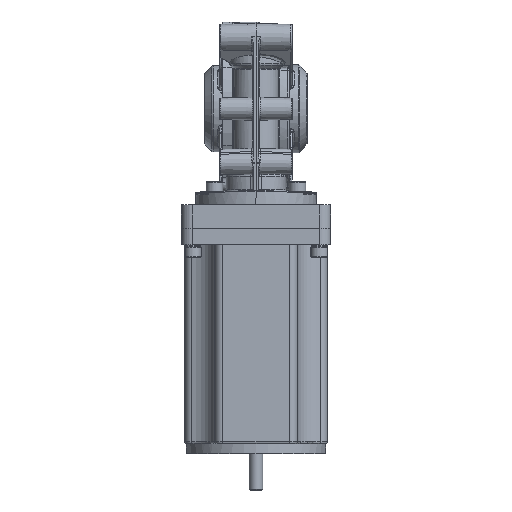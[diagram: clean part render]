
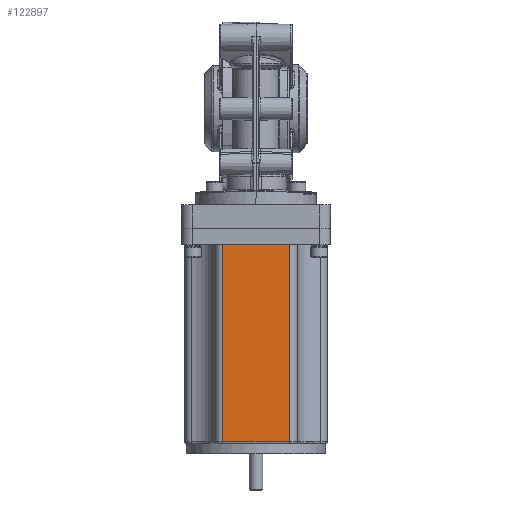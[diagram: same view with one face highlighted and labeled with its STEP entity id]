
A CAD part, front view. The second image highlights one B-rep face of the part: STEP entity #122897.
In plain terms, the highlighted planar face has unit normal (0, -1, 0).
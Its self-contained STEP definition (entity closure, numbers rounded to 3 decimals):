
#8643 = DIRECTION ( 'NONE',  ( 0., 0., 1. ) ) ;
#9313 = CARTESIAN_POINT ( 'NONE',  ( 45.459, -45.684, -94.205 ) ) ;
#17553 = VERTEX_POINT ( 'NONE', #9313 ) ;
#24649 = EDGE_CURVE ( 'NONE', #48954, #25318, #122090, .T. ) ;
#25318 = VERTEX_POINT ( 'NONE', #147780 ) ;
#30849 = AXIS2_PLACEMENT_3D ( 'NONE', #34263, #133296, #60990 ) ;
#34263 = CARTESIAN_POINT ( 'NONE',  ( -17.579, -45.684, -81.705 ) ) ;
#42306 = CARTESIAN_POINT ( 'NONE',  ( 45.459, -45.684, -213.205 ) ) ;
#43373 = ORIENTED_EDGE ( 'NONE', *, *, #90122, .T. ) ;
#43898 = DIRECTION ( 'NONE',  ( 1., 0., 0. ) ) ;
#48954 = VERTEX_POINT ( 'NONE', #114506 ) ;
#50348 = VECTOR ( 'NONE', #8643, 1000. ) ;
#53748 = DIRECTION ( 'NONE',  ( 0., 0., -1. ) ) ;
#60990 = DIRECTION ( 'NONE',  ( 1., 0., 0. ) ) ;
#67125 = CARTESIAN_POINT ( 'NONE',  ( 45.459, -45.684, -81.705 ) ) ;
#68939 = EDGE_CURVE ( 'NONE', #69695, #17553, #70380, .T. ) ;
#69390 = VECTOR ( 'NONE', #53748, 1000. ) ;
#69695 = VERTEX_POINT ( 'NONE', #160430 ) ;
#70380 = LINE ( 'NONE', #67125, #50348 ) ;
#74432 = VECTOR ( 'NONE', #134474, 1000. ) ;
#81969 = LINE ( 'NONE', #42306, #140741 ) ;
#89520 = ORIENTED_EDGE ( 'NONE', *, *, #24649, .T. ) ;
#89769 = EDGE_LOOP ( 'NONE', ( #156331, #131720, #89520, #43373 ) ) ;
#90122 = EDGE_CURVE ( 'NONE', #25318, #69695, #81969, .T. ) ;
#97093 = EDGE_CURVE ( 'NONE', #48954, #17553, #127226, .T. ) ;
#102432 = CARTESIAN_POINT ( 'NONE',  ( 5.383, -45.684, -81.705 ) ) ;
#105635 = FACE_OUTER_BOUND ( 'NONE', #89769, .T. ) ;
#114506 = CARTESIAN_POINT ( 'NONE',  ( 5.383, -45.684, -94.205 ) ) ;
#122090 = LINE ( 'NONE', #102432, #69390 ) ;
#122897 = ADVANCED_FACE ( 'NONE', ( #105635 ), #132449, .F. ) ;
#127226 = LINE ( 'NONE', #158760, #74432 ) ;
#131720 = ORIENTED_EDGE ( 'NONE', *, *, #97093, .F. ) ;
#132449 = PLANE ( 'NONE',  #30849 ) ;
#133296 = DIRECTION ( 'NONE',  ( 0., 1., 0. ) ) ;
#134474 = DIRECTION ( 'NONE',  ( 1., 0., 0. ) ) ;
#140741 = VECTOR ( 'NONE', #43898, 1000. ) ;
#147780 = CARTESIAN_POINT ( 'NONE',  ( 5.383, -45.684, -213.205 ) ) ;
#156331 = ORIENTED_EDGE ( 'NONE', *, *, #68939, .T. ) ;
#158760 = CARTESIAN_POINT ( 'NONE',  ( -17.579, -45.684, -94.205 ) ) ;
#160430 = CARTESIAN_POINT ( 'NONE',  ( 45.459, -45.684, -213.205 ) ) ;
